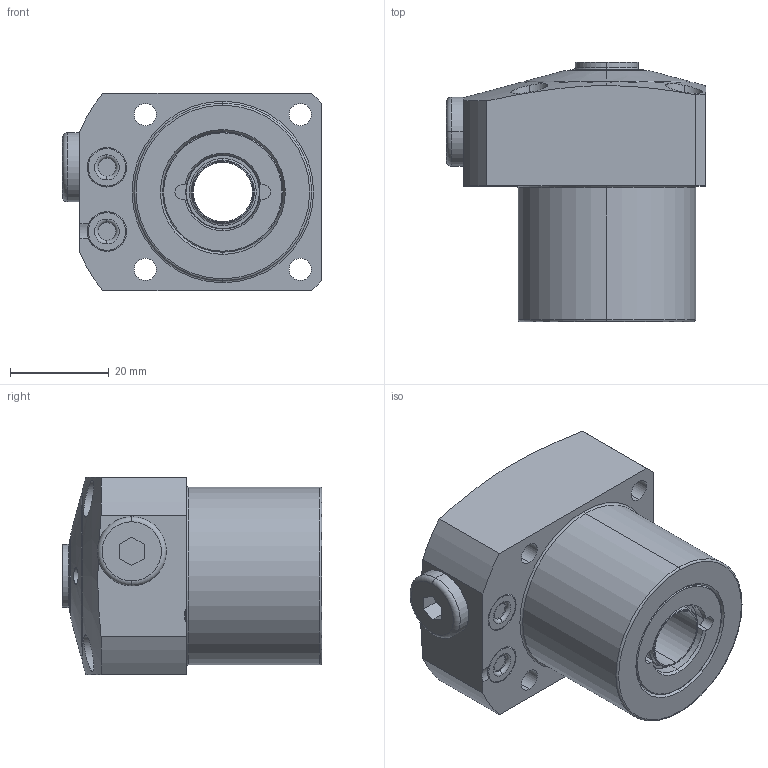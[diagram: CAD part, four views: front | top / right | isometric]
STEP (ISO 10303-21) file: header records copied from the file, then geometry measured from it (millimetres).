
FILE_DESCRIPTION(/* description */ (''),/* implementation_level */ '2;1');
FILE_NAME(/* name */ 'KFSS36-C.stp',/* time_stamp */ '2026-02-06T10:11:43+08:00',/* author */ (''),/* organization */ (''),/* preprocessor_version */ 'ST-DEVELOPER v16.7',/* originating_system */ 'SIEMENS PLM Software NX 12.0',/* authorisation */ '');
FILE_SCHEMA (('AUTOMOTIVE_DESIGN { 1 0 10303 214 3 1 1 1 }'));
Length unit declared in the file: millimetre
Products named in the file (4): KFSS36-C-01; KFSS36-C-02; KFSS36-C-03-P5; LC0363-C-D_step
Assembly tree (4 placements, depth 2):
  LC0363-C-D_step
    KFSS36-C-03-P5  x2
    KFSS36-C-02
    KFSS36-C-01
Bounding box: 52.5 x 52.6 x 40 mm (x, y, z)
Volume: 60626.3 mm3; surface area: 14954.1 mm2
Topology: 4 solids, 4 shells, 180 faces, 400 edges, 243 vertices
Faces by surface type: cylinder 60, plane 46, torus 40, cone 34
Entity records: 5228 total; most frequent: CARTESIAN_POINT 1195, DIRECTION 895, ORIENTED_EDGE 744, AXIS2_PLACEMENT_3D 378, EDGE_CURVE 372, VERTEX_POINT 229, CIRCLE 205, EDGE_LOOP 199
